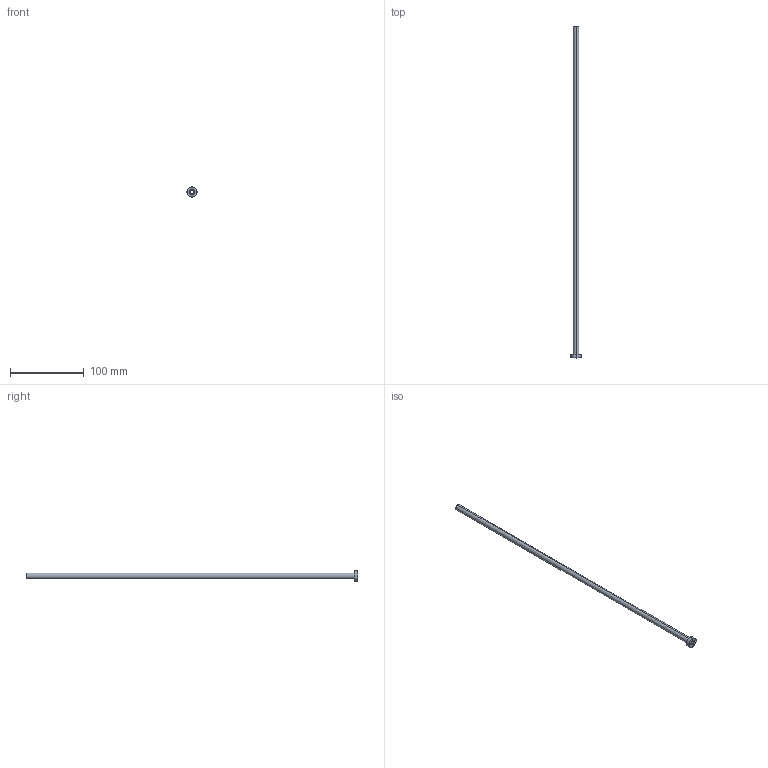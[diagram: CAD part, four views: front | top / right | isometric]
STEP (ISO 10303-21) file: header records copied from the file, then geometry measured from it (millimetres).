
FILE_DESCRIPTION (( 'STEP AP203' ), '1' );
FILE_NAME ('ESD05L450.step', '2022-02-05T03:45:53', ( 'Microsoft Corporation' ), ( 'MS' ), 'SwSTEP 2.0', 'SolidWorks 2019', '' );
FILE_SCHEMA (( 'CONFIG_CONTROL_DESIGN' ));
Length unit declared in the file: millimetre
Products named in the file (1): ESD05L450
Bounding box: 14 x 450 x 14 mm (x, y, z)
Volume: 12653.7 mm3; surface area: 19345.5 mm2
Topology: 1 solids, 1 shells, 21 faces, 42 edges, 24 vertices
Faces by surface type: cone 8, cylinder 8, plane 3, torus 2
Entity records: 627 total; most frequent: DIRECTION 112, CARTESIAN_POINT 88, ORIENTED_EDGE 84, AXIS2_PLACEMENT_3D 48, EDGE_CURVE 42, CIRCLE 26, EDGE_LOOP 24, VERTEX_POINT 24
